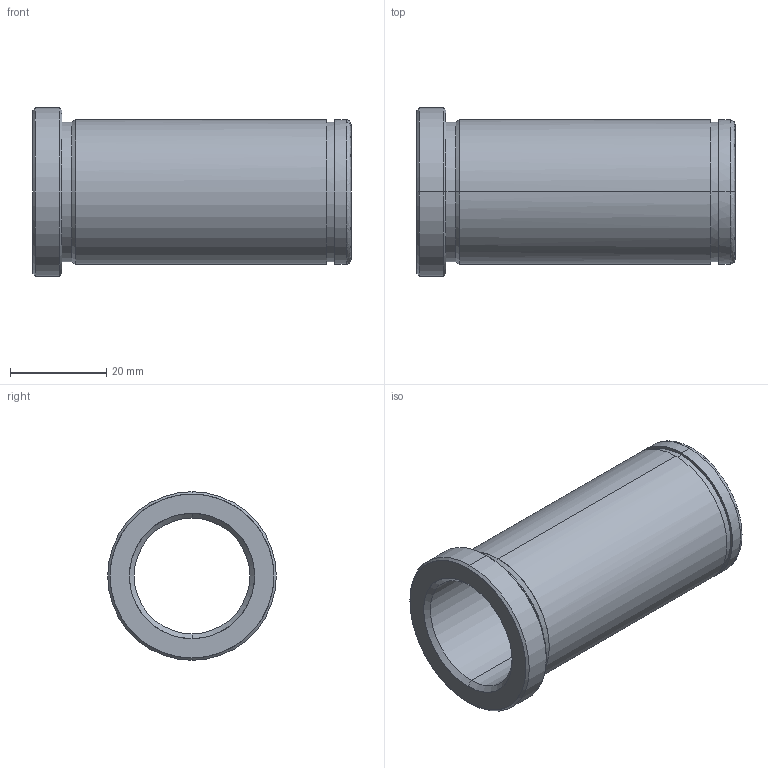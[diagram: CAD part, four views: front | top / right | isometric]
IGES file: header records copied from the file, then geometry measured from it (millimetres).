
Start section: START RECORD GO HERE.
Global section: file name: 553-24X66.igs; native system: DASSAULT SYSTEMES CATIA V5 R20 - www.3ds.com; preprocessor: CATIA Version 5 Release 20 ; author: Utente; organization: NB04-ASUS; date: 20210525.202110; units: millimetre
Bounding box: 66 x 35 x 35 mm (x, y, z)
Surface area: 12252.7 mm2 (no closed solid volume)
Topology: 0 solids, 0 shells, 29 faces, 184 edges, 184 vertices
Faces by surface type: revolution 24, plane 5
